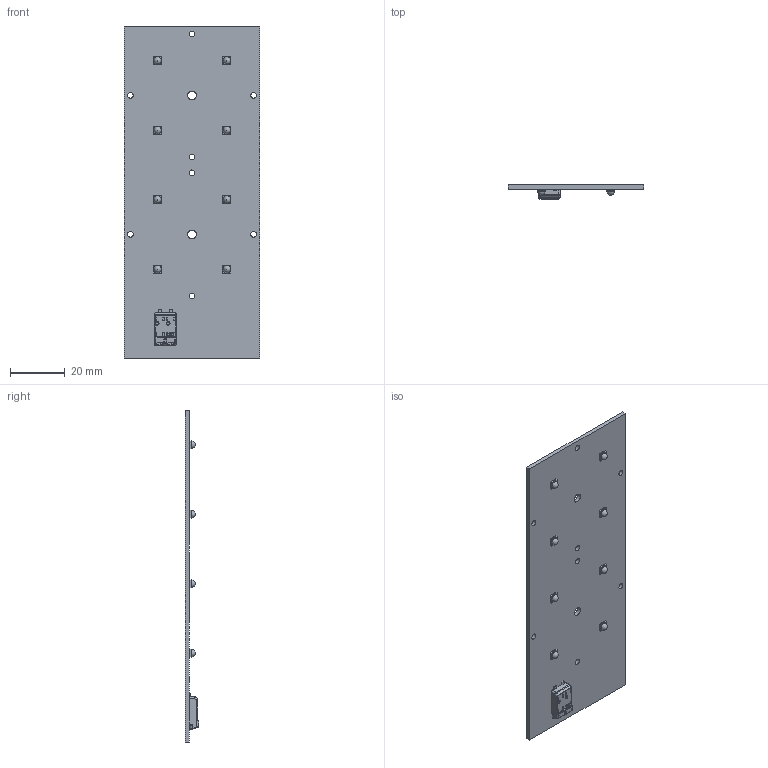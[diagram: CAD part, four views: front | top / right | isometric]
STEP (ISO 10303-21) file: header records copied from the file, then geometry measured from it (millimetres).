
FILE_DESCRIPTION(/* description */ ('Unknown'),/* implementation_level */ '2;1');
FILE_NAME(/* name */ '1010-117-28200 sh-000 2018-03-05',/* time_stamp */ '2018-03-05T08:10:33+01:00',/* author */ ('Unknown'),/* organization */ ('Unknown'),/* preprocessor_version */ 'ST-DEVELOPER v16.7',/* originating_system */ 'DEX',/* authorisation */ $);
FILE_SCHEMA (('AUTOMOTIVE_DESIGN {1 0 10303 214 3 1 1}'));
Length unit declared in the file: millimetre
Products named in the file (4): Z這瞠nie RecLED 122x50mm 2x4 ; PCB RecLED 122x50mm 2x4 ; 4010-411-12610 Sh-000 2016-11-03; LED Oslon Gen3
Assembly tree (10 placements, depth 2):
  Z這瞠nie RecLED 122x50mm 2x4 
    PCB RecLED 122x50mm 2x4 
    4010-411-12610 Sh-000 2016-11-03
    LED Oslon Gen3  x8
Bounding box: 49.5 x 4.95 x 121.4 mm (x, y, z)
Volume: 9287 mm3; surface area: 13189.9 mm2
Topology: 10 solids, 10 shells, 751 faces, 1920 edges, 1214 vertices
Faces by surface type: plane 345, cylinder 256, bspline 87, torus 27, cone 26, sphere 10
Full cylindrical faces by diameter (mm): 2.1 x8, 3.2 x2
Entity records: 19540 total; most frequent: CARTESIAN_POINT 5826, ORIENTED_EDGE 2318, DIRECTION 1860, EDGE_CURVE 1159, VERTEX_POINT 732, AXIS2_PLACEMENT_3D 642, LINE 576, VECTOR 576
